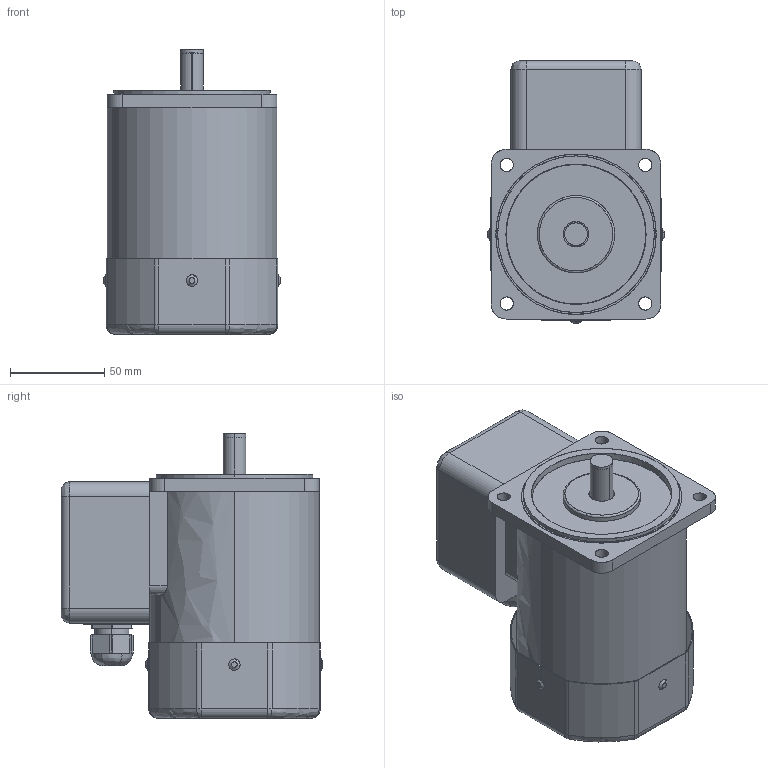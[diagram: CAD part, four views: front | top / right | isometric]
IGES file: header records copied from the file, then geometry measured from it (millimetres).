
Start section: SolidWorks IGES file using analytic representation for surfaces
Bounding box: 94 x 139 x 151 mm (x, y, z)
Surface area: 118502 mm2 (no closed solid volume)
Topology: 0 solids, 0 shells, 204 faces, 3047 edges, 3039 vertices
Faces by surface type: bspline 114, revolution 90
